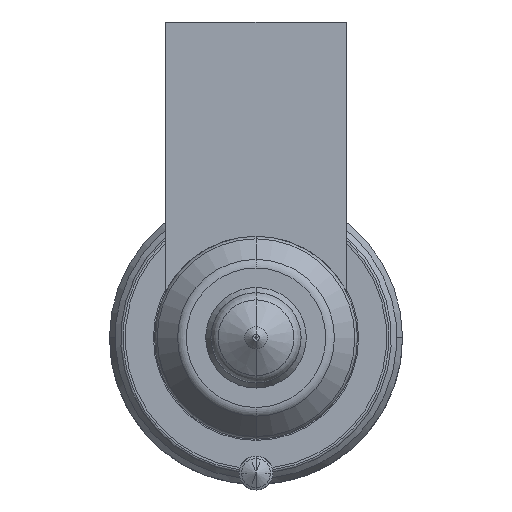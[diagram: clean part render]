
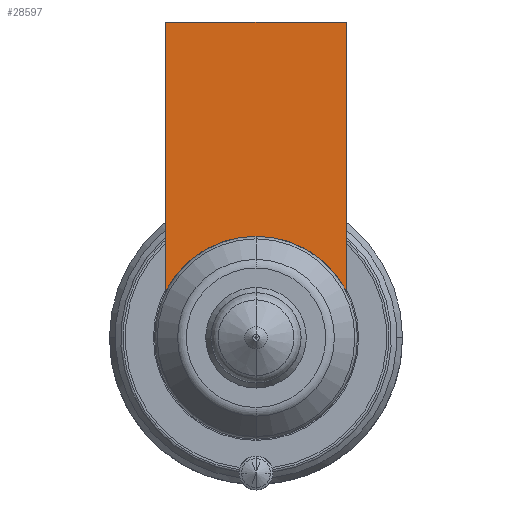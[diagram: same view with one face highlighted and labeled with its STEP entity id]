
A CAD part, front view. The second image highlights one B-rep face of the part: STEP entity #28597.
In plain terms, the highlighted planar face has unit normal (0, -1, 0).
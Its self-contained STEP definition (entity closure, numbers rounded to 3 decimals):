
#27776=DIRECTION('',(1.,0.,0.));
#27777=VECTOR('',#27776,16.);
#27778=CARTESIAN_POINT('',(-8.,-54.,28.));
#27779=LINE('',#27778,#27777);
#27784=CARTESIAN_POINT('',(0.,-54.,0.));
#27785=DIRECTION('',(0.,-1.,0.));
#27786=DIRECTION('',(0.889,0.,0.458));
#27787=AXIS2_PLACEMENT_3D('',#27784,#27785,#27786);
#27792=CARTESIAN_POINT('',(0.,-54.,0.));
#27793=DIRECTION('',(0.,-1.,0.));
#27794=DIRECTION('',(0.,0.,1.));
#27795=AXIS2_PLACEMENT_3D('',#27792,#27793,#27794);
#27821=DIRECTION('',(0.,0.,-1.));
#27822=VECTOR('',#27821,23.877);
#27823=CARTESIAN_POINT('',(-8.,-54.,28.));
#27824=LINE('',#27823,#27822);
#28449=DIRECTION('',(0.,0.,-1.));
#28450=VECTOR('',#28449,23.877);
#28451=CARTESIAN_POINT('',(8.,-54.,28.));
#28452=LINE('',#28451,#28450);
#28502=CARTESIAN_POINT('',(-8.,-54.,28.));
#28503=VERTEX_POINT('',#28502);
#28508=CARTESIAN_POINT('',(8.,-54.,28.));
#28509=VERTEX_POINT('',#28508);
#28512=CARTESIAN_POINT('',(-8.,-54.,4.123));
#28513=VERTEX_POINT('',#28512);
#28516=CARTESIAN_POINT('',(8.,-54.,4.123));
#28517=VERTEX_POINT('',#28516);
#28578=CARTESIAN_POINT('',(0.,-54.,9.));
#28579=VERTEX_POINT('',#28578);
#28580=CARTESIAN_POINT('',(0.,-54.,9.));
#28581=DIRECTION('',(0.,1.,0.));
#28582=DIRECTION('',(0.,0.,-1.));
#28583=AXIS2_PLACEMENT_3D('',#28580,#28581,#28582);
#28584=PLANE('',#28583);
#28586=ORIENTED_EDGE('',*,*,#28585,.F.);
#28588=ORIENTED_EDGE('',*,*,#28587,.T.);
#28590=ORIENTED_EDGE('',*,*,#28589,.T.);
#28592=ORIENTED_EDGE('',*,*,#28591,.T.);
#28594=ORIENTED_EDGE('',*,*,#28593,.T.);
#28595=EDGE_LOOP('',(#28586,#28588,#28590,#28592,#28594));
#28596=FACE_OUTER_BOUND('',#28595,.F.);
#28597=ADVANCED_FACE('',(#28596),#28584,.F.);
#27788=CIRCLE('',#27787,9.);
#27796=CIRCLE('',#27795,9.);
#28585=EDGE_CURVE('',#28503,#28513,#27824,.T.);
#28587=EDGE_CURVE('',#28503,#28509,#27779,.T.);
#28589=EDGE_CURVE('',#28509,#28517,#28452,.T.);
#28591=EDGE_CURVE('',#28517,#28579,#27788,.T.);
#28593=EDGE_CURVE('',#28579,#28513,#27796,.T.);
